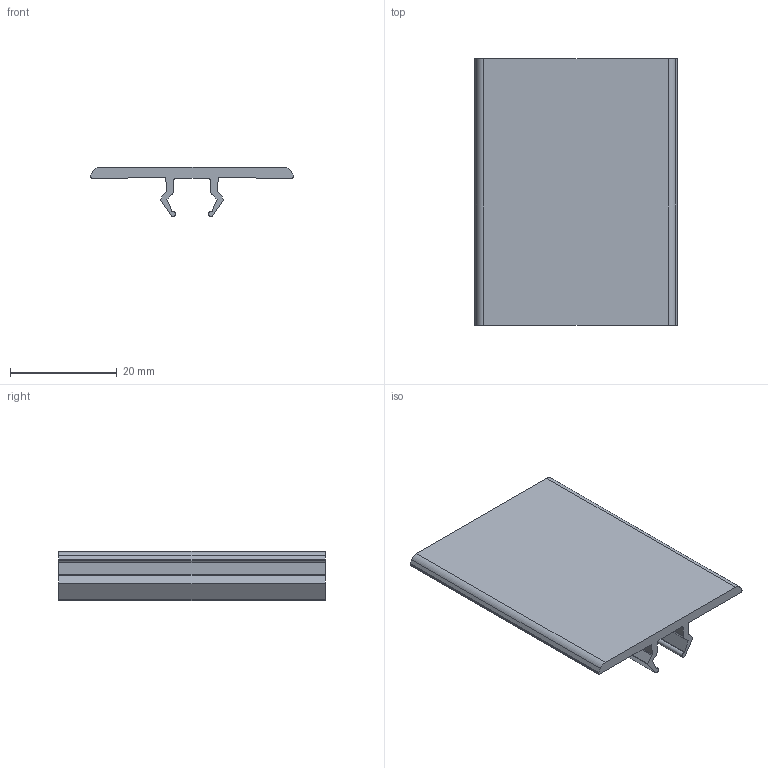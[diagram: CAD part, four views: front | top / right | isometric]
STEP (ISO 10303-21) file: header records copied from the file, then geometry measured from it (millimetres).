
FILE_DESCRIPTION(('STEP AP214'),'1');
FILE_NAME('KP4B.stp','2021-12-28T09:04:45',(' '),(' '),'Spatial InterOp 3D',' ',' ');
FILE_SCHEMA(('AUTOMOTIVE_DESIGN { 1 0 10303 214 1 1 1 1 }'));
Length unit declared in the file: millimetre
Products named in the file (1): KP4B
Bounding box: 38 x 50 x 9.2 mm (x, y, z)
Volume: 4572.4 mm3; surface area: 5632.1 mm2
Topology: 1 solids, 1 shells, 44 faces, 126 edges, 84 vertices
Faces by surface type: cylinder 22, plane 22
Entity records: 1822 total; most frequent: DIRECTION 260, CARTESIAN_POINT 255, ORIENTED_EDGE 252, EDGE_CURVE 126, AXIS2_PLACEMENT_3D 89, VERTEX_POINT 84, LINE 82, VECTOR 82
